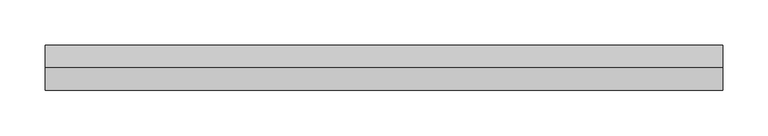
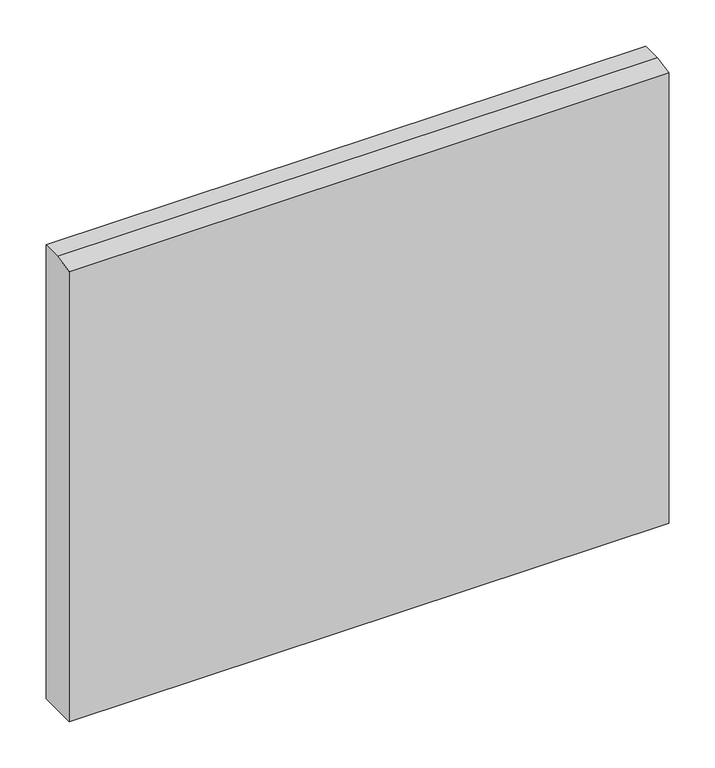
"""IFC4 building model written with IfcOpenShell, lengths in millimetres: proxy geometry, 400_35_NS_gevelplint : 50 mm dik."""

from ifc_helpers import new_model, si_unit, frame, origin, place, context, project, spatial, polyline, outline, extrude, source, transform, mapped, element, save


def generic_models_ca184088(model_context):
    return source(origin(), model_context, "Body", "SweptSolid", [
        extrude(outline(polyline([(50.0, 0.0), (0.0, 0.0), (0.0, 595.0), (25.0, 600.0), (50.0, 600.0), (50.0, 0.0)])), frame((-375.0, 0.0, 0.0), z_axis=(1.0, 0.0, 0.0), x_axis=(0.0, 1.0, 0.0)), (0.0, 0.0, 1.0), 750.0),
    ])


if __name__ == "__main__":
    model = new_model("IFC4")
    model_context = context("Model", 3, world=origin())
    ifc_project = project(units=[si_unit("LENGTHUNIT", "METRE", prefix="MILLI")], contexts=[model_context])
    site = spatial("IfcSite", under=ifc_project)
    building = spatial("IfcBuilding", under=site)
    placement = place(None, origin())
    generic_models_shape = generic_models_ca184088(model_context)
    element("IfcBuildingElementProxy", 1, Name="400_35_NS_gevelplint : 50 mm dik", ObjectType="400_35_NS_gevelplint : 50 mm dik", at=placement, inside=building, context=model_context, shape_type="MappedRepresentation", body=[
        mapped(generic_models_shape, transform((0.0, 0.0, 0.0), x_axis=(1.0, 0.0, 0.0), y_axis=(0.0, 1.0, 0.0), z_axis=(0.0, 0.0, 1.0))),
    ])
    save(model, "model.ifc")
